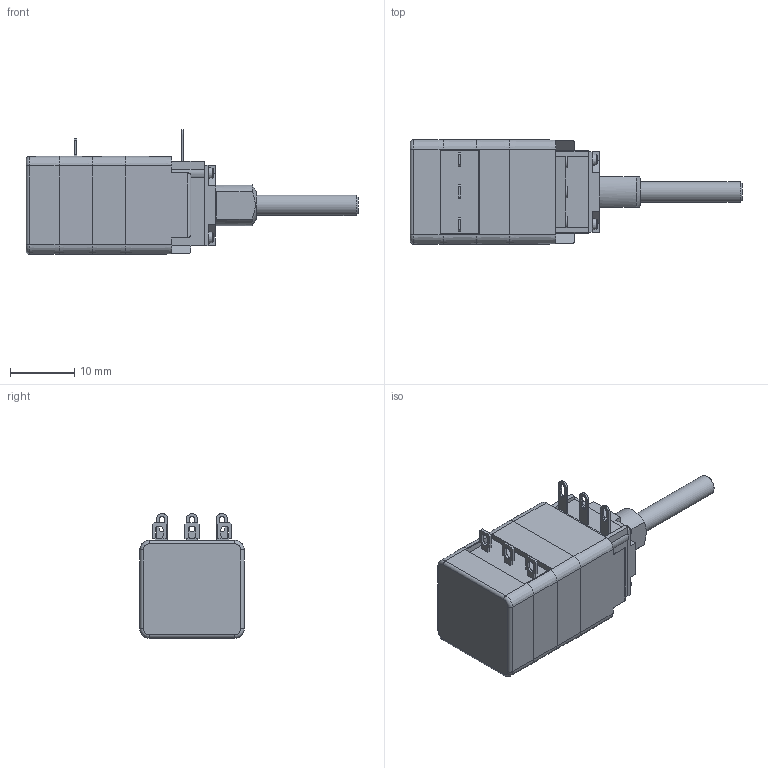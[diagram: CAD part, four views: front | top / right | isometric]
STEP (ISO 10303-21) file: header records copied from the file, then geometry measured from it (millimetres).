
FILE_DESCRIPTION(/* description */ ('Unknown'),/* implementation_level */ '2;1');
FILE_NAME(/* name */ 'P11M2A0BJRY00103KA',/* time_stamp */ '2026-07-17T11:50:47+02:00',/* author */ ('Unknown'),/* organization */ ('Unknown'),/* preprocessor_version */ 'ST-DEVELOPER v19.4',/* originating_system */ 'Solid Edge',/* authorisation */ 'Unknown');
FILE_SCHEMA (('AUTOMOTIVE_DESIGN {1 0 10303 214 3 1 1}'));
Length unit declared in the file: millimetre
Products named in the file (1): P11M2A0BJRY00103KA2
Bounding box: 51.56 x 16.24 x 19.37 mm (x, y, z)
Volume: 4132.4 mm3; surface area: 6517.7 mm2
Topology: 9 solids, 9 shells, 598 faces, 1614 edges, 1055 vertices
Faces by surface type: plane 360, cylinder 160, cone 68, torus 10
Full cylindrical faces by diameter (mm): 1.5 x4, 1.55 x4, 1.6 x6, 3.17 x1, 3.3 x1, 3.36 x1, 4.1 x1, 5.25 x1, 6.4 x1, 7.44 x1, 10.6 x1, 11.35 x1
Entity records: 18840 total; most frequent: CARTESIAN_POINT 3333, DIRECTION 3152, ORIENTED_EDGE 3070, EDGE_CURVE 1535, AXIS2_PLACEMENT_3D 1068, VERTEX_POINT 1033, LINE 1016, VECTOR 1016
